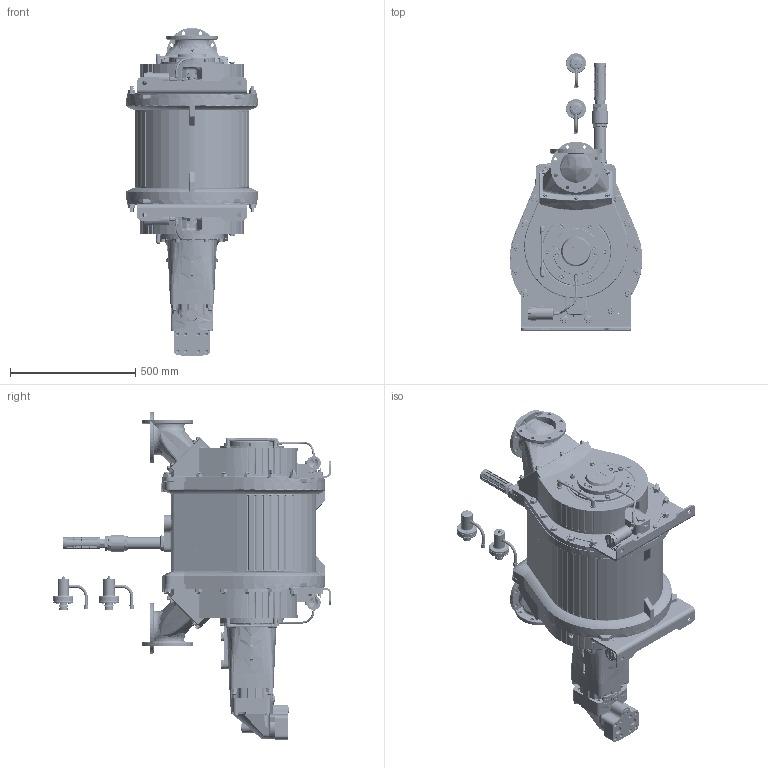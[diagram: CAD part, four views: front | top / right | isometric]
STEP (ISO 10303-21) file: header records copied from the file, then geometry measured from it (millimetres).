
FILE_DESCRIPTION(/* description */ (''),/* implementation_level */ '2;1');
FILE_NAME(/* name */ '1700162.stp',/* time_stamp */ '2026-04-22T14:00:32+02:00',/* author */ ('JJ'),/* organization */ (''),/* preprocessor_version */ 'ST-DEVELOPER v20',/* originating_system */ 'Autodesk Inventor 2025',/* authorisation */ '');
FILE_SCHEMA (('AUTOMOTIVE_DESIGN { 1 0 10303 214 3 1 1 }'));
Products named in the file (69): 1700162; 1659021; 1659049; 910100170; 910200008; 1634823; 1634808; 922000270; 910100021; 910100161; 944600276; 1659046; 910300074; 1659095; 1634824; 1634809; 922000269; 925000587; 925000590; 944600356; 944600355; 1659017; 1659069; 1634666; 1634667; 1634668; 1634130; 1634131; 1634670; 1634134; 910200105; 910100125; 910300428; 921000047; 922100045; 922100339; 1634669; 925000651; 910300012; 925000862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
Assembly tree (201 placements, depth 4):
  1700162
    1659017  x4
    1659069  x4
    1659021  x2
    910100021  x34
    910100161  x34
    910100170  x12
    910200008  x12
    1634823  x2
      1634808
      922000270
    1634826  x2
      1634811
      922000266
    1659049  x2
    944600276  x4
    1659046  x2
    910300074  x2
    1634824  x2
      1634809
      922000269
    1659095
    925000587
    925000590
    944600356
    944600355
    1634666  x2
      1634667
      1634668
      1634130
      1634131
      1634670
      1634134
      910200105
      910100125
      910300428
      921000047
      922100045
      922100339
      1634669
      925000651
      910300012
    925000862  x2
    927000134-TM2500  x2
    910300487  x2
    910100191  x2
    944600240  x2
    915000232  x2
    915000225  x2
      915000225-part1
      915000225-part2
    915000217
    1634773  x2
    915000215  x2
    915000217_1
    1659078_Simplify_body
    1659106
      1634826  x2
        1634811
        922000266
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Bounding box: 528.82 x 1107.24 x 1309 mm (x, y, z)
Volume: 159002281.6 mm3; surface area: 6754479.7 mm2
Topology: 228 solids, 230 shells, 11802 faces, 30497 edges, 19667 vertices
Faces by surface type: plane 4467, bspline 3166, cylinder 2585, cone 996, torus 404, sphere 184
Full cylindrical faces by diameter (mm): 1.5 x16, 3.2 x4, 3.3 x4, 3.5 x4, 4 x2, 4.134 x4, 4.917 x2, 4.92 x10, 5 x2, 5.3 x2, 6 x46, 6.1 x2, 6.4 x2, 6.5 x8, 8 x36, 8.376 x14, 8.4 x2, 8.5 x3, 8.57 x2, 9.2 x2, 9.7 x2, 9.8 x4, 10 x189, 10.106 x9, 10.5 x12, 11 x66, 11.18 x2, 11.3 x4, 11.445 x2, 11.835 x8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
Entity records: 500380 total; most frequent: CARTESIAN_POINT 336088, ORIENTED_EDGE 36014, DIRECTION 27381, EDGE_CURVE 18007, VERTEX_POINT 11598, AXIS2_PLACEMENT_3D 9926, EDGE_LOOP 7875, LINE 7529
